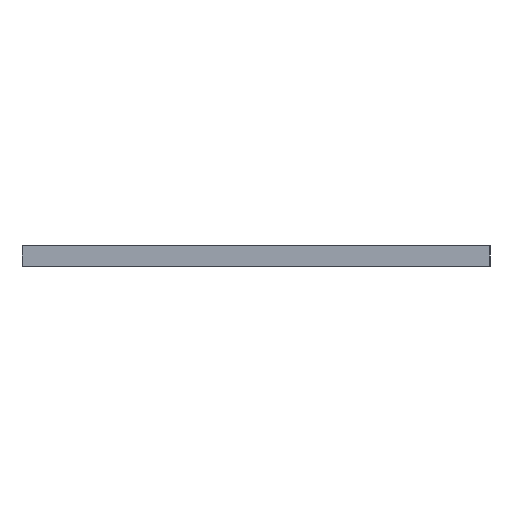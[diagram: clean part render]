
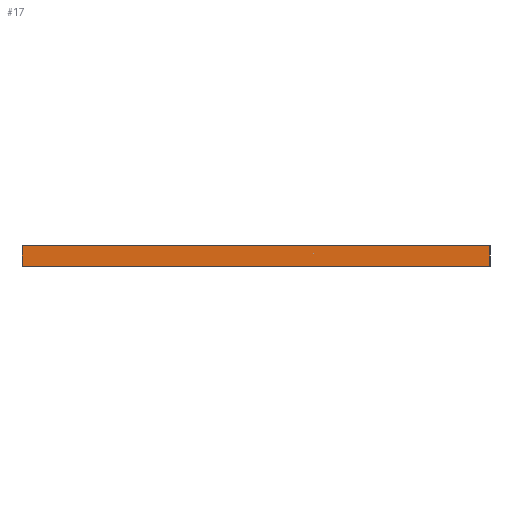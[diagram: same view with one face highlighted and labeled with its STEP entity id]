
A CAD part, left-side view. The second image highlights one B-rep face of the part: STEP entity #17.
In plain terms, the highlighted planar face has unit normal (-1, 0, 0).
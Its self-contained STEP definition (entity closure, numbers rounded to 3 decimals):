
#17 = ADVANCED_FACE('',(#18),#32,.F.);
#18 = FACE_BOUND('',#19,.F.);
#19 = EDGE_LOOP('',(#20,#55,#83,#111));
#20 = ORIENTED_EDGE('',*,*,#21,.F.);
#21 = EDGE_CURVE('',#22,#24,#26,.T.);
#22 = VERTEX_POINT('',#23);
#23 = CARTESIAN_POINT('',(-48.,44.,18.));
#24 = VERTEX_POINT('',#25);
#25 = CARTESIAN_POINT('',(-48.,44.,20.));
#26 = SURFACE_CURVE('',#27,(#31,#43),.PCURVE_S1.);
#27 = LINE('',#28,#29);
#28 = CARTESIAN_POINT('',(-48.,44.,18.));
#29 = VECTOR('',#30,1.);
#30 = DIRECTION('',(0.,0.,1.));
#31 = PCURVE('',#32,#37);
#32 = PLANE('',#33);
#33 = AXIS2_PLACEMENT_3D('',#34,#35,#36);
#34 = CARTESIAN_POINT('',(-48.,44.,18.));
#35 = DIRECTION('',(1.,0.,-0.));
#36 = DIRECTION('',(0.,0.,1.));
#37 = DEFINITIONAL_REPRESENTATION('',(#38),#42);
#38 = LINE('',#39,#40);
#39 = CARTESIAN_POINT('',(0.,0.));
#40 = VECTOR('',#41,1.);
#41 = DIRECTION('',(1.,0.));
#42 = ( GEOMETRIC_REPRESENTATION_CONTEXT(2) 
PARAMETRIC_REPRESENTATION_CONTEXT() REPRESENTATION_CONTEXT('2D SPACE',''
  ) );
#43 = PCURVE('',#44,#49);
#44 = PLANE('',#45);
#45 = AXIS2_PLACEMENT_3D('',#46,#47,#48);
#46 = CARTESIAN_POINT('',(-48.,44.,18.));
#47 = DIRECTION('',(-0.,1.,0.));
#48 = DIRECTION('',(0.,0.,1.));
#49 = DEFINITIONAL_REPRESENTATION('',(#50),#54);
#50 = LINE('',#51,#52);
#51 = CARTESIAN_POINT('',(0.,0.));
#52 = VECTOR('',#53,1.);
#53 = DIRECTION('',(1.,0.));
#54 = ( GEOMETRIC_REPRESENTATION_CONTEXT(2) 
PARAMETRIC_REPRESENTATION_CONTEXT() REPRESENTATION_CONTEXT('2D SPACE',''
  ) );
#55 = ORIENTED_EDGE('',*,*,#56,.T.);
#56 = EDGE_CURVE('',#22,#57,#59,.T.);
#57 = VERTEX_POINT('',#58);
#58 = CARTESIAN_POINT('',(-48.,90.,18.));
#59 = SURFACE_CURVE('',#60,(#64,#71),.PCURVE_S1.);
#60 = LINE('',#61,#62);
#61 = CARTESIAN_POINT('',(-48.,44.,18.));
#62 = VECTOR('',#63,1.);
#63 = DIRECTION('',(-0.,1.,0.));
#64 = PCURVE('',#32,#65);
#65 = DEFINITIONAL_REPRESENTATION('',(#66),#70);
#66 = LINE('',#67,#68);
#67 = CARTESIAN_POINT('',(0.,0.));
#68 = VECTOR('',#69,1.);
#69 = DIRECTION('',(0.,-1.));
#70 = ( GEOMETRIC_REPRESENTATION_CONTEXT(2) 
PARAMETRIC_REPRESENTATION_CONTEXT() REPRESENTATION_CONTEXT('2D SPACE',''
  ) );
#71 = PCURVE('',#72,#77);
#72 = PLANE('',#73);
#73 = AXIS2_PLACEMENT_3D('',#74,#75,#76);
#74 = CARTESIAN_POINT('',(-48.,44.,18.));
#75 = DIRECTION('',(0.,0.,1.));
#76 = DIRECTION('',(1.,0.,-0.));
#77 = DEFINITIONAL_REPRESENTATION('',(#78),#82);
#78 = LINE('',#79,#80);
#79 = CARTESIAN_POINT('',(0.,0.));
#80 = VECTOR('',#81,1.);
#81 = DIRECTION('',(0.,1.));
#82 = ( GEOMETRIC_REPRESENTATION_CONTEXT(2) 
PARAMETRIC_REPRESENTATION_CONTEXT() REPRESENTATION_CONTEXT('2D SPACE',''
  ) );
#83 = ORIENTED_EDGE('',*,*,#84,.T.);
#84 = EDGE_CURVE('',#57,#85,#87,.T.);
#85 = VERTEX_POINT('',#86);
#86 = CARTESIAN_POINT('',(-48.,90.,20.));
#87 = SURFACE_CURVE('',#88,(#92,#99),.PCURVE_S1.);
#88 = LINE('',#89,#90);
#89 = CARTESIAN_POINT('',(-48.,90.,18.));
#90 = VECTOR('',#91,1.);
#91 = DIRECTION('',(0.,0.,1.));
#92 = PCURVE('',#32,#93);
#93 = DEFINITIONAL_REPRESENTATION('',(#94),#98);
#94 = LINE('',#95,#96);
#95 = CARTESIAN_POINT('',(0.,-46.));
#96 = VECTOR('',#97,1.);
#97 = DIRECTION('',(1.,0.));
#98 = ( GEOMETRIC_REPRESENTATION_CONTEXT(2) 
PARAMETRIC_REPRESENTATION_CONTEXT() REPRESENTATION_CONTEXT('2D SPACE',''
  ) );
#99 = PCURVE('',#100,#105);
#100 = PLANE('',#101);
#101 = AXIS2_PLACEMENT_3D('',#102,#103,#104);
#102 = CARTESIAN_POINT('',(-48.,90.,18.));
#103 = DIRECTION('',(-0.,1.,0.));
#104 = DIRECTION('',(0.,0.,1.));
#105 = DEFINITIONAL_REPRESENTATION('',(#106),#110);
#106 = LINE('',#107,#108);
#107 = CARTESIAN_POINT('',(0.,0.));
#108 = VECTOR('',#109,1.);
#109 = DIRECTION('',(1.,0.));
#110 = ( GEOMETRIC_REPRESENTATION_CONTEXT(2) 
PARAMETRIC_REPRESENTATION_CONTEXT() REPRESENTATION_CONTEXT('2D SPACE',''
  ) );
#111 = ORIENTED_EDGE('',*,*,#112,.F.);
#112 = EDGE_CURVE('',#24,#85,#113,.T.);
#113 = SURFACE_CURVE('',#114,(#118,#125),.PCURVE_S1.);
#114 = LINE('',#115,#116);
#115 = CARTESIAN_POINT('',(-48.,44.,20.));
#116 = VECTOR('',#117,1.);
#117 = DIRECTION('',(-0.,1.,0.));
#118 = PCURVE('',#32,#119);
#119 = DEFINITIONAL_REPRESENTATION('',(#120),#124);
#120 = LINE('',#121,#122);
#121 = CARTESIAN_POINT('',(2.,0.));
#122 = VECTOR('',#123,1.);
#123 = DIRECTION('',(0.,-1.));
#124 = ( GEOMETRIC_REPRESENTATION_CONTEXT(2) 
PARAMETRIC_REPRESENTATION_CONTEXT() REPRESENTATION_CONTEXT('2D SPACE',''
  ) );
#125 = PCURVE('',#126,#131);
#126 = PLANE('',#127);
#127 = AXIS2_PLACEMENT_3D('',#128,#129,#130);
#128 = CARTESIAN_POINT('',(-48.,44.,20.));
#129 = DIRECTION('',(0.,0.,1.));
#130 = DIRECTION('',(1.,0.,-0.));
#131 = DEFINITIONAL_REPRESENTATION('',(#132),#136);
#132 = LINE('',#133,#134);
#133 = CARTESIAN_POINT('',(0.,0.));
#134 = VECTOR('',#135,1.);
#135 = DIRECTION('',(0.,1.));
#136 = ( GEOMETRIC_REPRESENTATION_CONTEXT(2) 
PARAMETRIC_REPRESENTATION_CONTEXT() REPRESENTATION_CONTEXT('2D SPACE',''
  ) );
